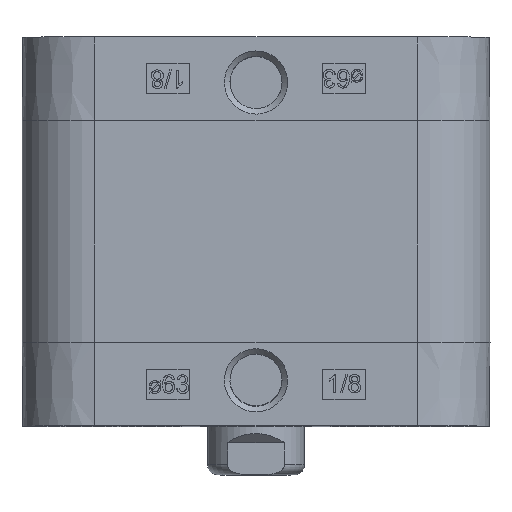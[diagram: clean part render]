
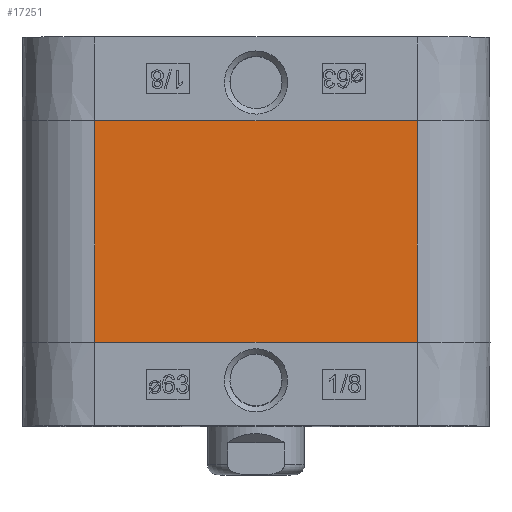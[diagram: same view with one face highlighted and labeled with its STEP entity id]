
A CAD part, top view. The second image highlights one B-rep face of the part: STEP entity #17251.
In plain terms, the highlighted planar face has unit normal (0, 0, 1) as drawn and (-1, 0, 0) by its records, which use the part's own axes.
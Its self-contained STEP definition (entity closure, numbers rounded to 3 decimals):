
#1021=PLANE('',#18363);
#1943=LINE('',#26848,#3031);
#1997=LINE('',#27072,#3085);
#2051=LINE('',#27297,#3139);
#2052=LINE('',#27298,#3140);
#3031=VECTOR('',#21073,1000.);
#3085=VECTOR('',#21245,1000.);
#3139=VECTOR('',#21417,1000.);
#3140=VECTOR('',#21418,1000.);
#6487=ORIENTED_EDGE('',*,*,#8444,.T.);
#6488=ORIENTED_EDGE('',*,*,#8668,.F.);
#6489=ORIENTED_EDGE('',*,*,#8556,.T.);
#6490=ORIENTED_EDGE('',*,*,#8669,.T.);
#8444=EDGE_CURVE('',#9829,#9827,#1943,.T.);
#8556=EDGE_CURVE('',#9940,#9941,#1997,.T.);
#8668=EDGE_CURVE('',#9940,#9827,#2051,.T.);
#8669=EDGE_CURVE('',#9941,#9829,#2052,.T.);
#9827=VERTEX_POINT('',#26846);
#9829=VERTEX_POINT('',#26849);
#9940=VERTEX_POINT('',#27073);
#9941=VERTEX_POINT('',#27074);
#11261=EDGE_LOOP('',(#6487,#6488,#6489,#6490));
#12164=FACE_BOUND('',#11261,.T.);
#17251=ADVANCED_FACE('',(#12164),#1021,.T.);
#18363=AXIS2_PLACEMENT_3D('',#27296,#21415,#21416);
#21073=DIRECTION('',(0.,1.,0.));
#21245=DIRECTION('',(0.,-1.,0.));
#21415=DIRECTION('',(-1.,0.,0.));
#21416=DIRECTION('',(0.,0.,1.));
#21417=DIRECTION('',(0.,0.,1.));
#21418=DIRECTION('',(0.,0.,1.));
#26846=CARTESIAN_POINT('',(-38.5,26.5,36.5));
#26848=CARTESIAN_POINT('',(-38.5,-26.5,36.5));
#26849=CARTESIAN_POINT('',(-38.5,-26.5,36.5));
#27072=CARTESIAN_POINT('',(-38.5,26.5,0.));
#27073=CARTESIAN_POINT('',(-38.5,26.5,0.));
#27074=CARTESIAN_POINT('',(-38.5,-26.5,0.));
#27296=CARTESIAN_POINT('',(-38.5,-26.5,0.));
#27297=CARTESIAN_POINT('',(-38.5,26.5,0.));
#27298=CARTESIAN_POINT('',(-38.5,-26.5,0.));
